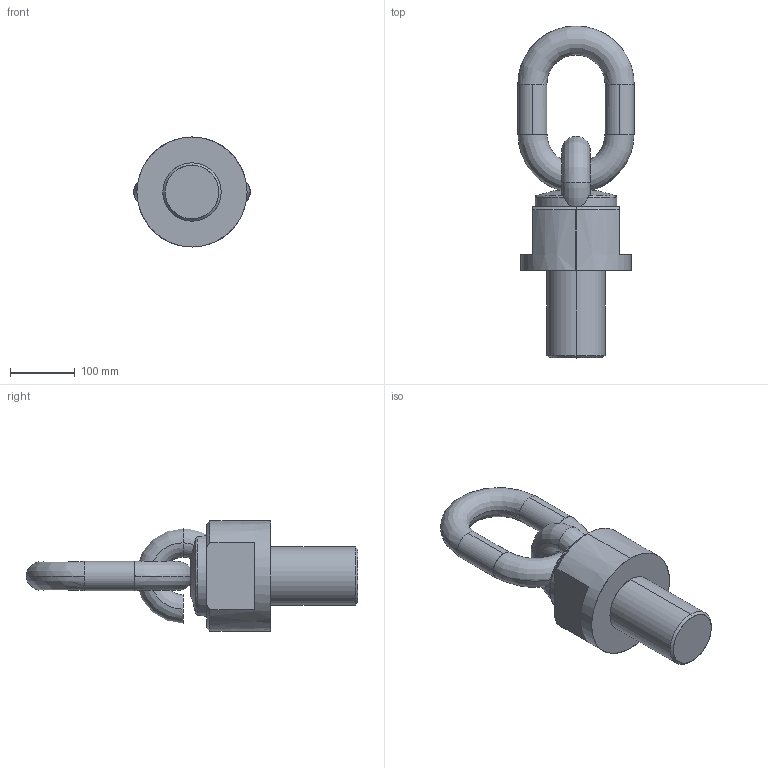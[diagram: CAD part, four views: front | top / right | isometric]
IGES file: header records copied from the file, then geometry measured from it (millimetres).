
Start section: START RECORD GO HERE.
Global section: file name: C800X40090135.igs; native system: DASSAULT SYSTEMES CATIA V5 R20 - www.3ds.com; preprocessor: CATIA Version 5 Release 20 ; author: Utente; organization: NB04-ASUS; date: 20200412.181758; units: millimetre
Bounding box: 180 x 513 x 170 mm (x, y, z)
Surface area: 240988.5 mm2 (no closed solid volume)
Topology: 0 solids, 0 shells, 42 faces, 233 edges, 233 vertices
Faces by surface type: revolution 30, extrusion 12
